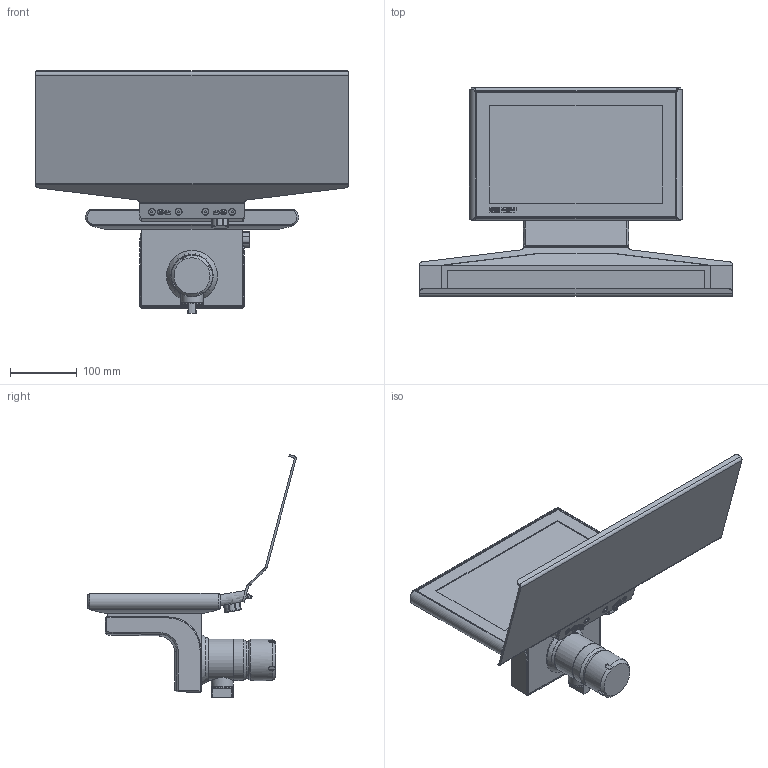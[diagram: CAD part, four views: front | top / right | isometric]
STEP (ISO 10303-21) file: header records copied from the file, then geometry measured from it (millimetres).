
FILE_DESCRIPTION(/* description */ (''),/* implementation_level */ '2;1');
FILE_NAME(/* name */ 'X:\0-inventor\0-3d-Teile\PC-Compo\solids\CP3xxx\0-Ausgabe\CP3911-M751-E274-M406.stp',/* time_stamp */ '2016-03-08T16:12:17+01:00',/* author */ ('christiankreuzer'),/* organization */ ('Design-AG'),/* preprocessor_version */ 'ST-DEVELOPER v16.1',/* originating_system */ 'Autodesk Inventor 2016',/* authorisation */ '');
FILE_SCHEMA (('AUTOMOTIVE_DESIGN { 1 0 10303 214 3 1 1 }'));
Length unit declared in the file: millimetre
Products named in the file (1): CP3911-M751-E274-M406-Step
Bounding box: 468 x 311.81 x 363.74 mm (x, y, z)
Volume: 3427561.4 mm3; surface area: 548431.7 mm2
Topology: 4 solids, 10 shells, 791 faces, 2072 edges, 1321 vertices
Faces by surface type: plane 409, cylinder 201, bspline 96, cone 77, torus 6, sphere 2
Full cylindrical faces by diameter (mm): 1.5 x1, 4.917 x1, 5.5 x4, 7.6 x2, 8.5 x2, 10 x4, 20.917 x1, 22 x1, 24 x1, 25 x1, 33 x1, 55 x1, 62 x3
Entity records: 27396 total; most frequent: CARTESIAN_POINT 8292, ORIENTED_EDGE 3984, DIRECTION 3577, EDGE_CURVE 1992, VERTEX_POINT 1288, AXIS2_PLACEMENT_3D 1200, LINE 1177, VECTOR 1177
